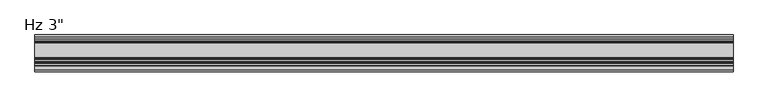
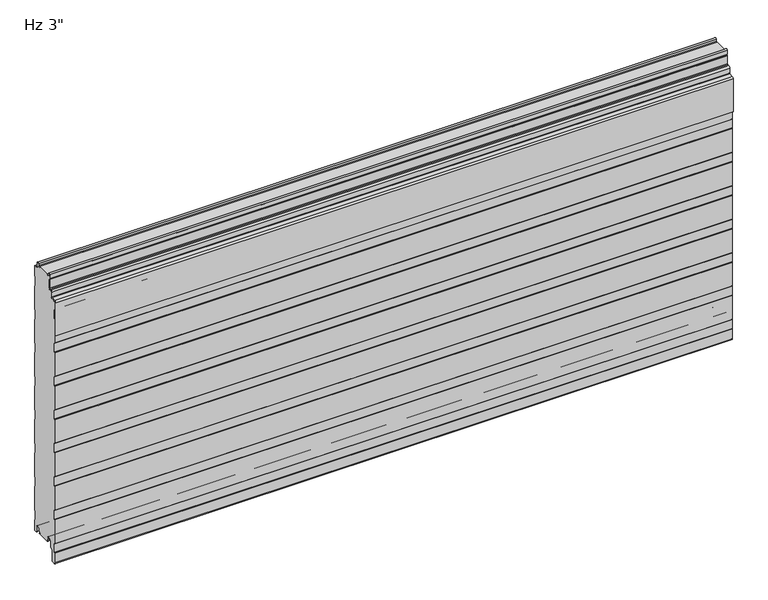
"""IFC4 building model written with IfcOpenShell, lengths in millimetres: plate geometry."""

from ifc_helpers import new_model, si_unit, point, frame, frame_2d, origin, place, context, project, spatial, polyline, circle_curve, trimmed, segment, composite_curve, outline, extrude, source, transform, mapped, element, save
from ifc_brep_helpers import plane_surface, cylinder_surface, revolved_surface, advanced_brep


def plate_1634ea5a(model_context):
    return source(origin(), model_context, "Body", "SolidModel", [
        advanced_brep(
        [(730.0, -55.1008679, 583.4464086), (730.0, -55.1008679, 602.1916086), (730.0, -56.6248679, 602.1916086), (730.0, -56.6248679, 583.4464086), (730.0, -58.1488679, 581.9224086), (730.0, -61.2476679, 581.9224086), (730.0, -64.7020679, 578.4680086), (730.0, -64.7020679, 567.2554512), (730.0, -65.3976552, 566.4963509), (730.0, -74.9416507, 565.3015233), (730.0, -77.724, 562.2651218), (730.0, -77.7360323, 486.6978086), (730.0, -76.2, 486.6978086), (730.0, -76.2, 562.2651218), (730.0, -74.8088254, 563.7833225), (730.0, -65.2648299, 564.9781501), (730.0, -63.1780679, 567.2554512), (730.0, -63.1780679, 578.4680086), (730.0, -61.2476679, 580.3984086), (730.0, -58.1488679, 580.3984086), (-730.0, -55.1008679, 583.4464086), (-730.0, -58.1488679, 580.3984086), (-730.0, -61.2476679, 580.3984086), (-730.0, -63.1780679, 578.4680086), (-730.0, -63.1780679, 567.2554512), (-730.0, -65.2648299, 564.9781501), (-730.0, -74.8088254, 563.7833225), (-730.0, -76.2, 562.2651218), (-730.0, -76.2, 486.6978086), (-730.0, -77.7360323, 486.6978086), (-730.0, -77.7360323, 562.2651218), (-730.0, -74.9416507, 565.3015233), (-730.0, -65.3976552, 566.4963509), (-730.0, -64.7020679, 567.2554512), (-730.0, -64.7020679, 578.4680086), (-730.0, -61.2476679, 581.9224086), (-730.0, -58.1488679, 581.9224086), (-730.0, -56.6248679, 583.4464086), (-730.0, -56.6248679, 602.1916086), (-730.0, -55.1008679, 602.1916086)],
        [
            (0, 1),
            (1, 2),
            (2, 3),
            (3, 4, circle_curve(frame((730.0, -58.1488679, 583.4464086), z_axis=(-1.0, 0.0, 0.0), x_axis=(0.0, 1.0, 0.0)), 1.524)),
            (4, 5),
            (5, 6, circle_curve(frame((730.0, -61.2476679, 578.4680086), z_axis=(1.0, 0.0, 0.0), x_axis=(0.0, 1.0, 0.0)), 3.4544)),
            (6, 7),
            (7, 8, circle_curve(frame((730.0, -65.4640679, 567.2554512), z_axis=(-1.0, 0.0, 0.0), x_axis=(0.0, 1.0, 0.0)), 0.762)),
            (8, 9),
            (9, 10, circle_curve(frame((730.0, -74.676, 562.2651218), z_axis=(1.0, 0.0, 0.0), x_axis=(0.0, 1.0, 0.0)), 3.048)),
            (10, 11),
            (11, 12),
            (12, 13),
            (13, 14, circle_curve(frame((730.0, -74.676, 562.2651218), z_axis=(-1.0, 0.0, 0.0), x_axis=(0.0, 1.0, 0.0)), 1.524)),
            (14, 15),
            (15, 16, circle_curve(frame((730.0, -65.4640679, 567.2554512), z_axis=(1.0, 0.0, 0.0), x_axis=(0.0, 1.0, 0.0)), 2.286)),
            (16, 17),
            (17, 18, circle_curve(frame((730.0, -61.2476679, 578.4680086), z_axis=(-1.0, 0.0, 0.0), x_axis=(0.0, 1.0, 0.0)), 1.9304)),
            (18, 19),
            (19, 0, circle_curve(frame((730.0, -58.1488679, 583.4464086), z_axis=(1.0, 0.0, 0.0), x_axis=(0.0, 1.0, 0.0)), 3.048)),
            (20, 21, circle_curve(frame((-730.0, -58.1488679, 583.4464086), z_axis=(-1.0, 0.0, 0.0), x_axis=(0.0, 1.0, 0.0)), 3.048)),
            (21, 22),
            (22, 23, circle_curve(frame((-730.0, -61.2476679, 578.4680086), z_axis=(1.0, 0.0, 0.0), x_axis=(0.0, 1.0, 0.0)), 1.9304)),
            (23, 24),
            (24, 25, circle_curve(frame((-730.0, -65.4640679, 567.2554512), z_axis=(-1.0, 0.0, 0.0), x_axis=(0.0, 1.0, 0.0)), 2.286)),
            (25, 26),
            (26, 27, circle_curve(frame((-730.0, -74.676, 562.2651218), z_axis=(1.0, 0.0, 0.0), x_axis=(0.0, 1.0, 0.0)), 1.524)),
            (27, 28),
            (28, 29),
            (29, 30),
            (30, 31, circle_curve(frame((-730.0, -74.676, 562.2651218), z_axis=(-1.0, 0.0, 0.0), x_axis=(0.0, 1.0, 0.0)), 3.048)),
            (31, 32),
            (32, 33, circle_curve(frame((-730.0, -65.4640679, 567.2554512), z_axis=(1.0, 0.0, 0.0), x_axis=(0.0, 1.0, 0.0)), 0.762)),
            (33, 34),
            (34, 35, circle_curve(frame((-730.0, -61.2476679, 578.4680086), z_axis=(-1.0, 0.0, 0.0), x_axis=(0.0, 1.0, 0.0)), 3.4544)),
            (35, 36),
            (36, 37, circle_curve(frame((-730.0, -58.1488679, 583.4464086), z_axis=(1.0, 0.0, 0.0), x_axis=(0.0, 1.0, 0.0)), 1.524)),
            (37, 38),
            (38, 39),
            (39, 20),
            (2, 38),
            (37, 3),
            (15, 25),
            (24, 16),
            (7, 33),
            (32, 8),
            (5, 35),
            (34, 6),
            (1, 39),
            (36, 4),
            (9, 31),
            (30, 10),
            (13, 27),
            (26, 14),
            (0, 20),
            (12, 28),
            (29, 11),
            (23, 17),
            (18, 22),
            (21, 19),
        ],
        [
            plane_surface(frame((730.0, -76.2, 602.1916086), z_axis=(1.0, 0.0, 0.0), x_axis=(0.0, 0.0, -1.0))),
            plane_surface(frame((-730.0, -76.2, 602.1916086), z_axis=(-1.0, 0.0, 0.0), x_axis=(0.0, 0.0, -1.0))),
            plane_surface(frame((730.0, -56.6248679, 583.4464086), z_axis=(0.0, -1.0, 0.0), x_axis=(-1.0, 0.0, 0.0))),
            cylinder_surface(frame((730.0, -65.4640679, 567.2554512), z_axis=(1.0, 0.0, 0.0), x_axis=(0.0, 1.0, 0.0)), 2.286),
            revolved_surface(polyline([(-730.0, -64.7020679, 567.2554512), (730.0, -64.7020679, 567.2554512)]), (730.0, -65.4640679, 567.2554512), (-1.0, 0.0, 0.0)),
            cylinder_surface(frame((730.0, -61.2476679, 578.4680086), z_axis=(1.0, 0.0, 0.0), x_axis=(0.0, 1.0, 0.0)), 3.4544),
            plane_surface(frame((730.0, -56.6248679, 602.1916086), z_axis=(0.0, 0.0, 1.0), x_axis=(-1.0, 0.0, 0.0))),
            revolved_surface(polyline([(-730.0, -56.6248679, 583.4464086), (730.0, -56.6248679, 583.4464086)]), (730.0, -58.1488679, 583.4464086), (-1.0, 0.0, 0.0)),
            cylinder_surface(frame((730.0, -74.676, 562.2651218), z_axis=(1.0, 0.0, 0.0), x_axis=(0.0, 1.0, 0.0)), 3.048),
            revolved_surface(polyline([(-730.0, -73.152, 562.2651218), (730.0, -73.152, 562.2651218)]), (730.0, -74.676, 562.2651218), (-1.0, 0.0, 0.0)),
            plane_surface(frame((730.0, -55.1008679, 602.1916086), z_axis=(0.0, 1.0, 0.0), x_axis=(-1.0, 0.0, 0.0))),
            plane_surface(frame((730.0, -65.2648299, 564.9781501), z_axis=(0.0, 0.12422187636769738, -0.9922544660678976), x_axis=(-1.0, 0.0, 0.0))),
            plane_surface(frame((730.0, -76.2, 562.2651218), z_axis=(0.0, 1.0, 0.0), x_axis=(-1.0, 0.0, 0.0))),
            plane_surface(frame((730.0, -74.9416507, 565.3015233), z_axis=(0.0, -0.12422187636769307, 0.9922544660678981), x_axis=(-1.0, 0.0, 0.0))),
            plane_surface(frame((730.0, -61.2476679, 581.9224086), z_axis=(0.0, 0.0, 1.0), x_axis=(-1.0, 0.0, 0.0))),
            plane_surface(frame((730.0, -77.7360323, 486.6978086), z_axis=(0.0, -1.0, 0.0), x_axis=(-1.0, 0.0, 0.0))),
            plane_surface(frame((730.0, -76.2, 486.6978086), z_axis=(0.0, 0.0, -1.0), x_axis=(-1.0, 0.0, 0.0))),
            plane_surface(frame((730.0, -63.1780679, 578.4680086), z_axis=(0.0, 1.0, 0.0), x_axis=(-1.0, 0.0, 0.0))),
            plane_surface(frame((730.0, -58.1488679, 580.3984086), z_axis=(0.0, 0.0, -1.0), x_axis=(-1.0, 0.0, 0.0))),
            plane_surface(frame((730.0, -64.7020679, 567.2554512), z_axis=(0.0, -1.0, 0.0), x_axis=(-1.0, 0.0, 0.0))),
            revolved_surface(polyline([(-730.0, -59.317267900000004, 578.4680086), (730.0, -59.317267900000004, 578.4680086)]), (730.0, -61.2476679, 578.4680086), (-1.0, 0.0, 0.0)),
            cylinder_surface(frame((730.0, -58.1488679, 583.4464086), z_axis=(1.0, 0.0, 0.0), x_axis=(0.0, 1.0, 0.0)), 3.048),
        ],
        [
            (0, [[1, 2, 3, 4, 5, 6, 7, 8, 9, 10, 11, 12, 13, 14, 15, 16, 17, 18, 19, 20]]),
            (1, [[21, 22, 23, 24, 25, 26, 27, 28, 29, 30, 31, 32, 33, 34, 35, 36, 37, 38, 39, 40]]),
            (2, [[41, -38, 42, -3]]),
            (3, [[43, -25, 44, -16]]),
            (4, [[45, -33, 46, -8]]),
            (5, [[47, -35, 48, -6]]),
            (6, [[49, -39, -41, -2]]),
            (7, [[-42, -37, 50, -4]]),
            (8, [[51, -31, 52, -10]]),
            (9, [[53, -27, 54, -14]]),
            (10, [[55, -40, -49, -1]]),
            (11, [[-54, -26, -43, -15]]),
            (12, [[56, -28, -53, -13]]),
            (13, [[-46, -32, -51, -9]]),
            (14, [[-50, -36, -47, -5]]),
            (15, [[-52, -30, 57, -11]]),
            (16, [[-57, -29, -56, -12]]),
            (17, [[-44, -24, 58, -17]]),
            (18, [[59, -22, 60, -19]]),
            (19, [[-48, -34, -45, -7]]),
            (20, [[-58, -23, -59, -18]]),
            (21, [[-60, -21, -55, -20]]),
        ],
    ),
        extrude(outline(composite_curve([segment(trimmed(circle_curve(frame_2d((-47.906538, 2.2313092)), 1.1999976), [point((-47.8760161, 1.0316999))], [point((-46.7065413, 2.2328239))], True, "CARTESIAN"), True, "CONTINUOUS"), segment(polyline([(-46.7065413, 2.2328239), (-46.7065413, 5.9912173), (-48.1050202, 5.9912173), (-48.1050202, 8.6903283)]), True, "CONTINUOUS"), segment(trimmed(circle_curve(frame_2d((-51.4550155, 8.6903283)), 3.3499953), [point((-48.1050202, 8.6903283))], [point((-51.4550155, 12.0403236))], True, "CARTESIAN"), True, "CONTINUOUS"), segment(polyline([(-51.4550155, 12.0403236), (-55.8550067, 12.0403236)]), True, "CONTINUOUS"), segment(trimmed(circle_curve(frame_2d((-55.8550067, 8.6903283)), 3.3499953), [point((-55.8550067, 12.0403236))], [point((-59.205002, 8.6903283))], True, "CARTESIAN"), True, "CONTINUOUS"), segment(polyline([(-59.205002, 8.6903283), (-59.205002, -3.1205608)]), True, "CONTINUOUS"), segment(trimmed(circle_curve(frame_2d((-60.9049966, -3.1205608)), 1.6999946), [point((-59.205002, -3.1205608))], [point((-59.7029189, -4.3226385))], False, "CARTESIAN"), True, "CONTINUOUS"), segment(polyline([(-59.7029189, -4.3226385), (-65.20499, -9.8247096), (-65.20499, -31.9198392)]), True, "CONTINUOUS"), segment(trimmed(circle_curve(frame_2d((-67.9049826, -31.9198392)), 2.6999926), [point((-65.20499, -31.9198392))], [point((-67.423592, -34.5765709))], False, "CARTESIAN"), True, "CONTINUOUS"), segment(polyline([(-67.423592, -34.5765709), (-72.4054129, -35.0125699)]), True, "CONTINUOUS"), segment(trimmed(circle_curve(frame_2d((-72.6294985, -32.4521176)), 2.5702393), [point((-72.4054129, -35.0125699))], [point((-75.1997378, -32.4521176))], False, "CARTESIAN"), True, "CONTINUOUS"), segment(polyline([(-75.1997378, -32.4521176), (-75.1997378, -10.4790962), (-73.9997693, -9.2791277), (-73.9997693, 10.4402849), (-75.2, 11.6405156), (-75.2, 65.7206473), (-73.9997693, 66.920878), (-73.9997693, 86.6402905), (-75.2, 87.8405213), (-75.2, 141.920653), (-73.9997693, 143.1208837), (-73.9997693, 162.8402962), (-75.2, 164.0405269), (-75.2, 218.1206587), (-73.9997693, 219.3208894), (-73.9997693, 239.0403019), (-75.2, 240.2405326), (-75.2, 294.3206644), (-73.9997693, 295.5208951), (-73.9997693, 315.2403076), (-75.2, 316.4405383), (-75.2, 370.5206701), (-73.9997693, 371.7209008), (-73.9997693, 391.4403133), (-75.2, 392.640544), (-75.2, 446.7206758), (-73.9997693, 447.9209065), (-73.9997693, 467.640319), (-75.2, 468.8405497), (-75.2, 522.9206815), (-73.9997693, 524.1209122), (-73.9997693, 543.8403247), (-75.2051411, 545.0456965), (-75.2051411, 561.1156233)]), True, "CONTINUOUS"), segment(trimmed(circle_curve(frame_2d((-73.2461194, 561.1156233)), 1.9590216), [point((-75.2051411, 561.1156233))], [point((-73.4178029, 563.0671075))], False, "CARTESIAN"), True, "CONTINUOUS"), segment(polyline([(-73.4178029, 563.0671075), (-64.9590902, 563.821161)]), True, "CONTINUOUS"), segment(trimmed(circle_curve(frame_2d((-65.2231732, 566.8396267)), 3.0299959), [point((-64.9590902, 563.821161))], [point((-62.1957873, 566.9653654))], True, "CARTESIAN"), True, "CONTINUOUS"), segment(polyline([(-62.1957873, 566.9653654), (-62.1957873, 577.0583308)]), True, "CONTINUOUS"), segment(trimmed(circle_curve(frame_2d((-61.2443786, 577.0583308)), 0.9514087), [point((-62.1957873, 577.0583308))], [point((-61.2443786, 578.0097394))], False, "CARTESIAN"), True, "CONTINUOUS"), segment(polyline([(-61.2443786, 578.0097394), (-58.1007233, 578.0097394)]), True, "CONTINUOUS"), segment(trimmed(circle_curve(frame_2d((-58.1007233, 582.0091924)), 3.9994529), [point((-58.1007233, 578.0097394))], [point((-54.1012703, 582.0091924))], True, "CARTESIAN"), True, "CONTINUOUS"), segment(polyline([(-54.1012703, 582.0091924), (-54.1012703, 603.1895515), (-56.0821181, 604.3334028), (-55.7268578, 613.306811)]), True, "CONTINUOUS"), segment(trimmed(circle_curve(frame_2d((-53.6266291, 613.2236622)), 2.1018739), [point((-55.7268578, 613.306811))], [point((-51.5262802, 613.3037148))], False, "CARTESIAN"), True, "CONTINUOUS"), segment(polyline([(-51.5262802, 613.3037148), (-51.2818653, 609.2977997)]), True, "CONTINUOUS"), segment(trimmed(circle_curve(frame_2d((-49.4434917, 609.4099653)), 1.8417922), [point((-51.2818653, 609.2977997))], [point((-49.4870527, 607.5686884))], True, "CARTESIAN"), True, "CONTINUOUS"), segment(polyline([(-49.4870527, 607.5686884), (-46.7025061, 607.5686884), (-46.7025061, 608.5686884), (-48.2900061, 608.5686884), (-47.2586945, 609.6), (-18.6184525, 609.6), (-17.5871409, 608.5686884), (-19.0015288, 608.5686884), (-19.0015288, 607.5686884), (-16.6743462, 607.5686884)]), True, "CONTINUOUS"), segment(trimmed(circle_curve(frame_2d((-16.6743462, 609.3186869)), 1.7499985), [point((-16.6743462, 607.5686884))], [point((-14.9256429, 609.2513685))], True, "CARTESIAN"), True, "CONTINUOUS"), segment(polyline([(-14.9256429, 609.2513685), (-14.7059822, 613.3921924)]), True, "CONTINUOUS"), segment(trimmed(circle_curve(frame_2d((-12.5552871, 613.2781032)), 2.153719), [point((-14.7059822, 613.3921924))], [point((-10.4046442, 613.3931719))], False, "CARTESIAN"), True, "CONTINUOUS"), segment(polyline([(-10.4046442, 613.3931719), (-9.9974365, 604.9016499)]), True, "CONTINUOUS"), segment(trimmed(circle_curve(frame_2d((-5.9867338, 605.0939817)), 4.0153117), [point((-9.9974365, 604.9016499))], [point((-6.0026007, 601.0787013))], True, "CARTESIAN"), True, "CONTINUOUS"), segment(polyline([(-6.0026007, 601.0787013), (-1.0, 601.0787013), (-1.0, 576.5794011), (-2.2002307, 575.1937682), (-2.2002307, 555.8186019), (-1.0, 554.4329689), (-1.0, 500.3795535), (-2.2002307, 498.9939206), (-2.2002307, 479.6187543), (-1.0, 478.2331213), (-1.0, 424.1797059), (-2.2002307, 422.794073), (-2.2002307, 403.4189067), (-1.0, 402.0332737), (-1.0, 347.9798583), (-2.2002307, 346.5942254), (-2.2002307, 327.2190591), (-1.0, 325.8334261), (-1.0, 271.7800107), (-2.2002307, 270.3943778), (-2.2002307, 251.0192115), (-1.0, 249.6335785), (-1.0, 195.5801631), (-2.2002307, 194.1945302), (-2.2002307, 174.8193639), (-1.0, 173.4337309), (-1.0, 119.3803155), (-2.2002307, 117.9946826), (-2.2002307, 98.6195163), (-1.0, 97.2338833), (-1.0, 43.1804679), (-2.2002307, 41.794835), (-2.2002307, 22.4196687), (-0.9999916, 21.034026), (-0.9999916, -3.4662506), (-5.2315389, -3.4662506)]), True, "CONTINUOUS"), segment(trimmed(circle_curve(frame_2d((-5.2315389, -1.6962564)), 1.7699942), [point((-5.2315389, -3.4662506))], [point((-7.0015331, -1.6962564))], False, "CARTESIAN"), True, "CONTINUOUS"), segment(polyline([(-7.0015331, -1.6962564), (-7.0015331, 8.7237222)]), True, "CONTINUOUS"), segment(trimmed(circle_curve(frame_2d((-10.301529, 8.7237222)), 3.2999959), [point((-7.0015331, 8.7237222))], [point((-10.301529, 12.023718))], True, "CARTESIAN"), True, "CONTINUOUS"), segment(polyline([(-10.301529, 12.023718), (-14.7015202, 12.023718)]), True, "CONTINUOUS"), segment(trimmed(circle_curve(frame_2d((-14.7015202, 8.7237223)), 3.2999957), [point((-14.7015202, 12.023718))], [point((-18.0015159, 8.7237223))], True, "CARTESIAN"), True, "CONTINUOUS"), segment(polyline([(-18.0015159, 8.7237223), (-18.0015159, 6.0315125), (-19.0015105, 6.0315125), (-19.0015105, 2.0313089)]), True, "CONTINUOUS"), segment(trimmed(circle_curve(frame_2d((-18.0015133, 2.0313089)), 0.9999972), [point((-19.0015105, 2.0313089))], [point((-18.0015192, 1.0313117))], True, "CARTESIAN"), True, "CONTINUOUS"), segment(polyline([(-18.0015192, 1.0313117), (-19.0328308, 0.0), (-46.8443162, 0.0), (-47.8760161, 1.0316999)]), True, "CONTINUOUS")], self_intersect=False)), frame((-730.0, 0.0, 0.0), z_axis=(1.0, 0.0, 0.0), x_axis=(0.0, 1.0, 0.0)), (0.0, 0.0, 1.0), 1460.0),
    ])


if __name__ == "__main__":
    model = new_model("IFC4")
    model_context = context("Model", 3, world=origin())
    ifc_project = project(units=[si_unit("LENGTHUNIT", "METRE", prefix="MILLI")], contexts=[model_context])
    site = spatial("IfcSite", under=ifc_project)
    building = spatial("IfcBuilding", under=site)
    placement = place(None, origin())
    plate_shape = plate_1634ea5a(model_context)
    element("IfcPlate", 1, ObjectType="KIP-24-Karrier-KP-R19-CP-Hz-SL3-8in_SL : Hz 3\"", at=placement, inside=building, context=model_context, shape_type="MappedRepresentation", body=[
        mapped(plate_shape, transform((0.0, 0.0, 0.0), x_axis=(1.0, 0.0, 0.0), y_axis=(0.0, 1.0, 0.0), z_axis=(0.0, 0.0, 1.0))),
    ])
    save(model, "model.ifc")
